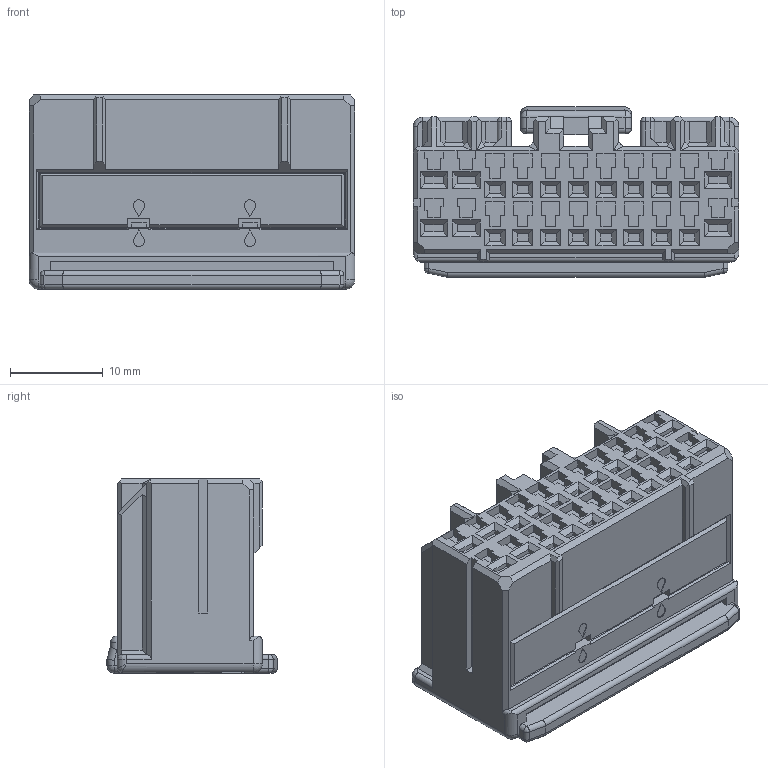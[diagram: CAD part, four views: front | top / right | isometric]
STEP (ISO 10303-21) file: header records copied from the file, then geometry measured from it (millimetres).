
FILE_DESCRIPTION((''),'2;1');
FILE_NAME('C-917989-1','2010-02-11T',('workeradm'),(''),'PRO/ENGINEER BY PARAMETRIC TECHNOLOGY CORPORATION, 2008380','PRO/ENGINEER BY PARAMETRIC TECHNOLOGY CORPORATION, 2008380','');
FILE_SCHEMA(('AUTOMOTIVE_DESIGN { 1 0 10303 214 1 1 1 1 }'));
Length unit declared in the file: millimetre
Products named in the file (1): C-917989-1
Bounding box: 35.2 x 18.4 x 21 mm (x, y, z)
Volume: 9016.4 mm3; surface area: 4765.1 mm2
Topology: 1 solids, 1 shells, 1106 faces, 2883 edges, 1843 vertices
Faces by surface type: plane 1013, cylinder 68, sphere 16, bspline 9
Entity records: 33460 total; most frequent: CARTESIAN_POINT 6438, ORIENTED_EDGE 5766, DIRECTION 5124, EDGE_CURVE 2883, VECTOR 2732, LINE 2732, VERTEX_POINT 1843, AXIS2_PLACEMENT_3D 1196
